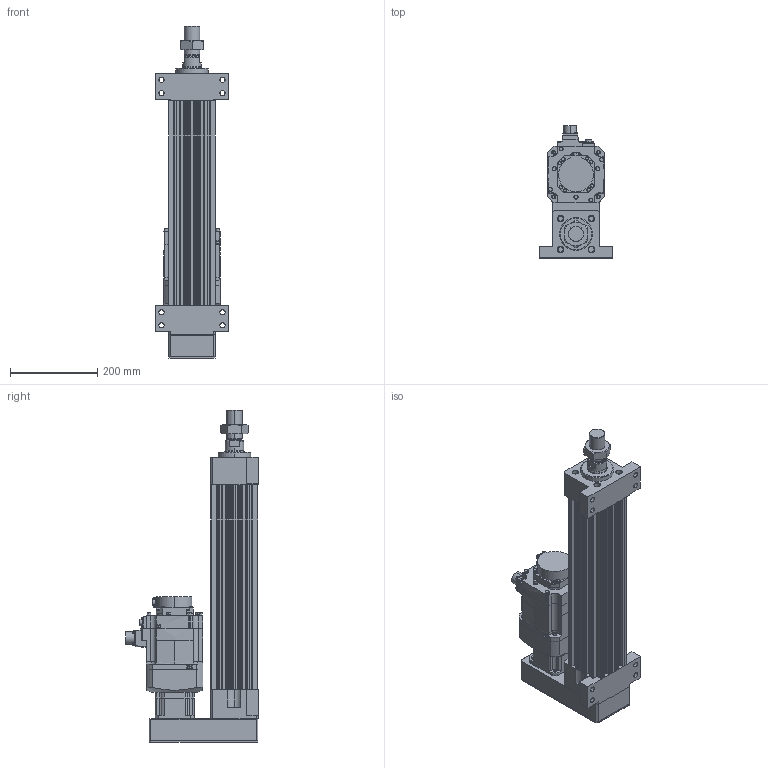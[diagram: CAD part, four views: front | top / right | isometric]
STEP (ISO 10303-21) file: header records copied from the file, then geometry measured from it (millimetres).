
FILE_DESCRIPTION (( 'STEP AP203' ), '1' );
FILE_NAME ('HES110NS(HS)-P300-W010G00-M-FFB.STEP', '2026-06-10T05:52:20', ( 'tms' ), ( '' ), 'SwSTEP 2.0', 'SolidWorks 2013', '' );
FILE_SCHEMA (( 'CONFIG_CONTROL_DESIGN' ));
Length unit declared in the file: millimetre
Products named in the file (8): HES110-FFB-300; M36X1.5P; HES110NS(HS)-P300-W010G00-M-FFB; AB0901; AB0902; HES110-P-G90; HG-SR102B; HES110-M-ROD-300
Assembly tree (7 placements, depth 2):
  HES110NS(HS)-P300-W010G00-M-FFB
    HES110-FFB-300
    HES110-M-ROD-300
    M36X1.5P
    HES110-P-G90
    AB0901
    AB0902
    HG-SR102B
Bounding box: 170 x 304.99 x 763 mm (x, y, z)
Volume: 7760326.9 mm3; surface area: 990302.8 mm2
Topology: 5 solids, 12 shells, 1157 faces, 2938 edges, 1909 vertices
Faces by surface type: cylinder 550, plane 517, cone 76, bspline 10, torus 4
Entity records: 37070 total; most frequent: CARTESIAN_POINT 7324, DIRECTION 6373, ORIENTED_EDGE 5832, EDGE_CURVE 2926, AXIS2_PLACEMENT_3D 2382, VERTEX_POINT 1909, LINE 1609, VECTOR 1609
